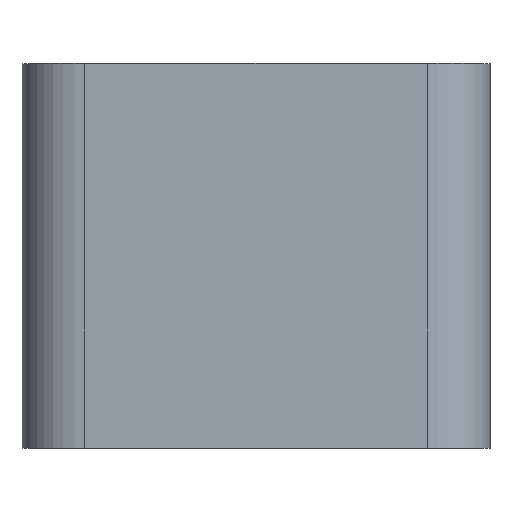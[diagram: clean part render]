
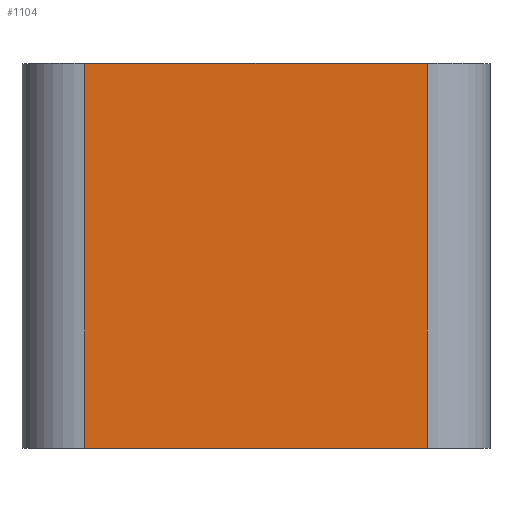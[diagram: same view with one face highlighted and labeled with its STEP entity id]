
A CAD part, top view. The second image highlights one B-rep face of the part: STEP entity #1104.
In plain terms, the highlighted planar face has unit normal (0, 0, 1).
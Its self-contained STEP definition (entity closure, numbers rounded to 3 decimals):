
#70 = PLANE('',#71);
#71 = AXIS2_PLACEMENT_3D('',#72,#73,#74);
#72 = CARTESIAN_POINT('',(-4.47,-3.675,0.));
#73 = DIRECTION('',(0.,1.,0.));
#74 = DIRECTION('',(0.,0.,1.));
#126 = PLANE('',#127);
#127 = AXIS2_PLACEMENT_3D('',#128,#129,#130);
#128 = CARTESIAN_POINT('',(-4.47,3.675,0.));
#129 = DIRECTION('',(0.,1.,0.));
#130 = DIRECTION('',(0.,0.,1.));
#152 = CYLINDRICAL_SURFACE('',#153,1.2);
#153 = AXIS2_PLACEMENT_3D('',#154,#155,#156);
#154 = CARTESIAN_POINT('',(-3.27,-3.675,2.06));
#155 = DIRECTION('',(0.,1.,0.));
#156 = DIRECTION('',(-1.,0.,0.));
#225 = VERTEX_POINT('',#226);
#226 = CARTESIAN_POINT('',(-3.27,-3.675,3.26));
#248 = EDGE_CURVE('',#225,#249,#251,.T.);
#249 = VERTEX_POINT('',#250);
#250 = CARTESIAN_POINT('',(3.27,-3.675,3.26));
#251 = SURFACE_CURVE('',#252,(#256,#263),.PCURVE_S1.);
#252 = LINE('',#253,#254);
#253 = CARTESIAN_POINT('',(-4.47,-3.675,3.26));
#254 = VECTOR('',#255,1.);
#255 = DIRECTION('',(1.,0.,0.));
#256 = PCURVE('',#70,#257);
#257 = DEFINITIONAL_REPRESENTATION('',(#258),#262);
#258 = LINE('',#259,#260);
#259 = CARTESIAN_POINT('',(3.26,0.));
#260 = VECTOR('',#261,1.);
#261 = DIRECTION('',(0.,1.));
#262 = ( GEOMETRIC_REPRESENTATION_CONTEXT(2)
PARAMETRIC_REPRESENTATION_CONTEXT() REPRESENTATION_CONTEXT('2D SPACE',''
  ) );
#263 = PCURVE('',#264,#269);
#264 = PLANE('',#265);
#265 = AXIS2_PLACEMENT_3D('',#266,#267,#268);
#266 = CARTESIAN_POINT('',(-4.47,-3.675,3.26));
#267 = DIRECTION('',(0.,0.,1.));
#268 = DIRECTION('',(1.,0.,0.));
#269 = DEFINITIONAL_REPRESENTATION('',(#270),#274);
#270 = LINE('',#271,#272);
#271 = CARTESIAN_POINT('',(0.,0.));
#272 = VECTOR('',#273,1.);
#273 = DIRECTION('',(1.,0.));
#274 = ( GEOMETRIC_REPRESENTATION_CONTEXT(2)
PARAMETRIC_REPRESENTATION_CONTEXT() REPRESENTATION_CONTEXT('2D SPACE',''
  ) );
#297 = CYLINDRICAL_SURFACE('',#298,1.2);
#298 = AXIS2_PLACEMENT_3D('',#299,#300,#301);
#299 = CARTESIAN_POINT('',(3.27,-3.675,2.06));
#300 = DIRECTION('',(0.,1.,0.));
#301 = DIRECTION('',(1.,0.,-0.));
#644 = EDGE_CURVE('',#225,#645,#647,.T.);
#645 = VERTEX_POINT('',#646);
#646 = CARTESIAN_POINT('',(-3.27,3.675,3.26));
#647 = SURFACE_CURVE('',#648,(#652,#659),.PCURVE_S1.);
#648 = LINE('',#649,#650);
#649 = CARTESIAN_POINT('',(-3.27,-3.675,3.26));
#650 = VECTOR('',#651,1.);
#651 = DIRECTION('',(0.,1.,0.));
#652 = PCURVE('',#152,#653);
#653 = DEFINITIONAL_REPRESENTATION('',(#654),#658);
#654 = LINE('',#655,#656);
#655 = CARTESIAN_POINT('',(1.571,0.));
#656 = VECTOR('',#657,1.);
#657 = DIRECTION('',(0.,1.));
#658 = ( GEOMETRIC_REPRESENTATION_CONTEXT(2)
PARAMETRIC_REPRESENTATION_CONTEXT() REPRESENTATION_CONTEXT('2D SPACE',''
  ) );
#659 = PCURVE('',#264,#660);
#660 = DEFINITIONAL_REPRESENTATION('',(#661),#665);
#661 = LINE('',#662,#663);
#662 = CARTESIAN_POINT('',(1.2,0.));
#663 = VECTOR('',#664,1.);
#664 = DIRECTION('',(0.,1.));
#665 = ( GEOMETRIC_REPRESENTATION_CONTEXT(2)
PARAMETRIC_REPRESENTATION_CONTEXT() REPRESENTATION_CONTEXT('2D SPACE',''
  ) );
#719 = EDGE_CURVE('',#645,#720,#722,.T.);
#720 = VERTEX_POINT('',#721);
#721 = CARTESIAN_POINT('',(3.27,3.675,3.26));
#722 = SURFACE_CURVE('',#723,(#727,#734),.PCURVE_S1.);
#723 = LINE('',#724,#725);
#724 = CARTESIAN_POINT('',(-4.47,3.675,3.26));
#725 = VECTOR('',#726,1.);
#726 = DIRECTION('',(1.,0.,0.));
#727 = PCURVE('',#126,#728);
#728 = DEFINITIONAL_REPRESENTATION('',(#729),#733);
#729 = LINE('',#730,#731);
#730 = CARTESIAN_POINT('',(3.26,0.));
#731 = VECTOR('',#732,1.);
#732 = DIRECTION('',(0.,1.));
#733 = ( GEOMETRIC_REPRESENTATION_CONTEXT(2)
PARAMETRIC_REPRESENTATION_CONTEXT() REPRESENTATION_CONTEXT('2D SPACE',''
  ) );
#734 = PCURVE('',#264,#735);
#735 = DEFINITIONAL_REPRESENTATION('',(#736),#740);
#736 = LINE('',#737,#738);
#737 = CARTESIAN_POINT('',(0.,7.35));
#738 = VECTOR('',#739,1.);
#739 = DIRECTION('',(1.,0.));
#740 = ( GEOMETRIC_REPRESENTATION_CONTEXT(2)
PARAMETRIC_REPRESENTATION_CONTEXT() REPRESENTATION_CONTEXT('2D SPACE',''
  ) );
#1082 = EDGE_CURVE('',#249,#720,#1083,.T.);
#1083 = SURFACE_CURVE('',#1084,(#1088,#1095),.PCURVE_S1.);
#1084 = LINE('',#1085,#1086);
#1085 = CARTESIAN_POINT('',(3.27,-3.675,3.26));
#1086 = VECTOR('',#1087,1.);
#1087 = DIRECTION('',(0.,1.,0.));
#1088 = PCURVE('',#297,#1089);
#1089 = DEFINITIONAL_REPRESENTATION('',(#1090),#1094);
#1090 = LINE('',#1091,#1092);
#1091 = CARTESIAN_POINT('',(-1.571,0.));
#1092 = VECTOR('',#1093,1.);
#1093 = DIRECTION('',(-0.,1.));
#1094 = ( GEOMETRIC_REPRESENTATION_CONTEXT(2)
PARAMETRIC_REPRESENTATION_CONTEXT() REPRESENTATION_CONTEXT('2D SPACE',''
  ) );
#1095 = PCURVE('',#264,#1096);
#1096 = DEFINITIONAL_REPRESENTATION('',(#1097),#1101);
#1097 = LINE('',#1098,#1099);
#1098 = CARTESIAN_POINT('',(7.74,0.));
#1099 = VECTOR('',#1100,1.);
#1100 = DIRECTION('',(0.,1.));
#1101 = ( GEOMETRIC_REPRESENTATION_CONTEXT(2)
PARAMETRIC_REPRESENTATION_CONTEXT() REPRESENTATION_CONTEXT('2D SPACE',''
  ) );
#1104 = ADVANCED_FACE('',(#1105),#264,.T.);
#1105 = FACE_BOUND('',#1106,.T.);
#1106 = EDGE_LOOP('',(#1107,#1108,#1109,#1110));
#1107 = ORIENTED_EDGE('',*,*,#719,.F.);
#1108 = ORIENTED_EDGE('',*,*,#644,.F.);
#1109 = ORIENTED_EDGE('',*,*,#248,.T.);
#1110 = ORIENTED_EDGE('',*,*,#1082,.T.);
